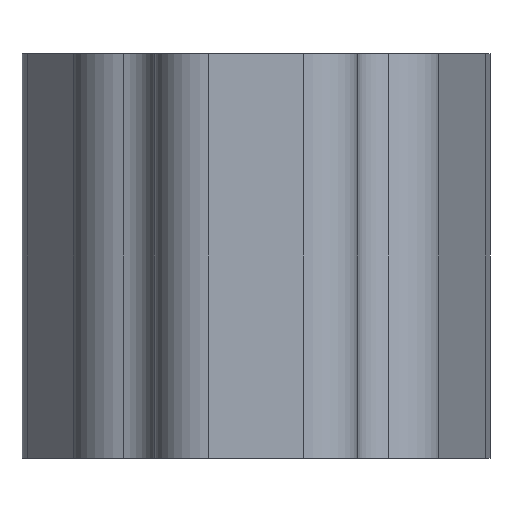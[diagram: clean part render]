
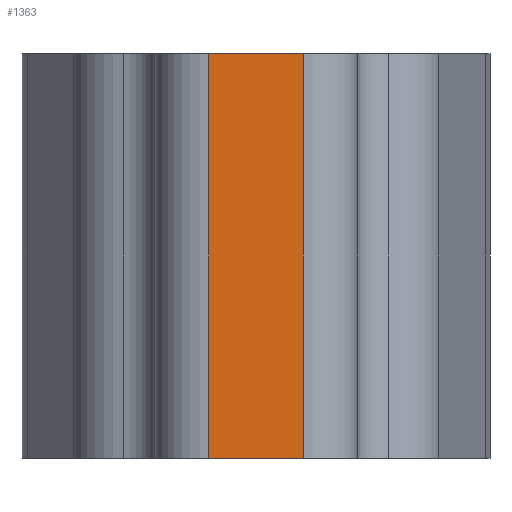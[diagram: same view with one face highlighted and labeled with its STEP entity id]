
A CAD part, front view. The second image highlights one B-rep face of the part: STEP entity #1363.
In plain terms, the highlighted planar face has unit normal (0, -1, 0).
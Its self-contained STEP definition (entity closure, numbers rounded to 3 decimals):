
#1 = CARTESIAN_POINT ( 'NONE',  ( -3.5, -60.55, -15. ) ) ;
#29 = VERTEX_POINT ( 'NONE', #584 ) ;
#36 = VECTOR ( 'NONE', #828, 1000. ) ;
#219 = CARTESIAN_POINT ( 'NONE',  ( -3.5, -60.55, 15. ) ) ;
#303 = DIRECTION ( 'NONE',  ( 0., 0., -1. ) ) ;
#314 = FACE_OUTER_BOUND ( 'NONE', #1340, .T. ) ;
#318 = LINE ( 'NONE', #811, #36 ) ;
#402 = LINE ( 'NONE', #219, #773 ) ;
#406 = CARTESIAN_POINT ( 'NONE',  ( 3.5, -60.55, -15. ) ) ;
#484 = EDGE_CURVE ( 'NONE', #29, #1344, #402, .T. ) ;
#554 = CARTESIAN_POINT ( 'NONE',  ( 3.5, -60.55, 15. ) ) ;
#574 = DIRECTION ( 'NONE',  ( 0., 0., 1. ) ) ;
#584 = CARTESIAN_POINT ( 'NONE',  ( -3.5, -60.55, 15. ) ) ;
#639 = EDGE_CURVE ( 'NONE', #1370, #1398, #1050, .T. ) ;
#667 = DIRECTION ( 'NONE',  ( 0., 0., 1. ) ) ;
#725 = EDGE_CURVE ( 'NONE', #1344, #1370, #318, .T. ) ;
#751 = LINE ( 'NONE', #1071, #857 ) ;
#773 = VECTOR ( 'NONE', #303, 1000. ) ;
#811 = CARTESIAN_POINT ( 'NONE',  ( -5.5, -60.55, -15. ) ) ;
#828 = DIRECTION ( 'NONE',  ( 1., 0., 0. ) ) ;
#855 = EDGE_CURVE ( 'NONE', #29, #1398, #751, .T. ) ;
#857 = VECTOR ( 'NONE', #1090, 1000. ) ;
#874 = CARTESIAN_POINT ( 'NONE',  ( 3.5, -60.55, 15. ) ) ;
#1049 = VECTOR ( 'NONE', #574, 1000. ) ;
#1050 = LINE ( 'NONE', #554, #1049 ) ;
#1053 = CARTESIAN_POINT ( 'NONE',  ( -5.5, -60.55, 15. ) ) ;
#1071 = CARTESIAN_POINT ( 'NONE',  ( -5.5, -60.55, 15. ) ) ;
#1090 = DIRECTION ( 'NONE',  ( 1., 0., 0. ) ) ;
#1094 = AXIS2_PLACEMENT_3D ( 'NONE', #1053, #1426, #667 ) ;
#1140 = PLANE ( 'NONE',  #1094 ) ;
#1290 = ORIENTED_EDGE ( 'NONE', *, *, #725, .T. ) ;
#1303 = ORIENTED_EDGE ( 'NONE', *, *, #855, .F. ) ;
#1304 = ORIENTED_EDGE ( 'NONE', *, *, #639, .T. ) ;
#1323 = ORIENTED_EDGE ( 'NONE', *, *, #484, .T. ) ;
#1340 = EDGE_LOOP ( 'NONE', ( #1290, #1304, #1303, #1323 ) ) ;
#1344 = VERTEX_POINT ( 'NONE', #1 ) ;
#1363 = ADVANCED_FACE ( 'NONE', ( #314 ), #1140, .F. ) ;
#1370 = VERTEX_POINT ( 'NONE', #406 ) ;
#1398 = VERTEX_POINT ( 'NONE', #874 ) ;
#1426 = DIRECTION ( 'NONE',  ( 0., 1., 0. ) ) ;
